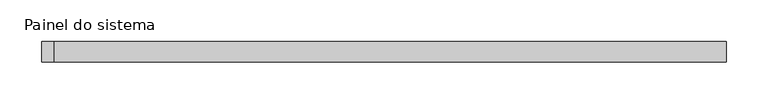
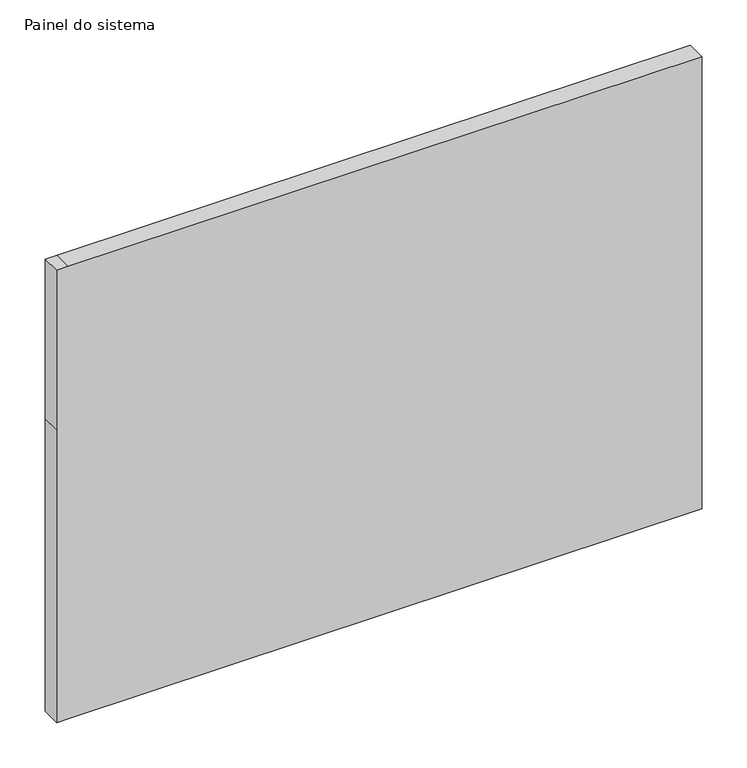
"""IFC4 building model written with IfcOpenShell, lengths in millimetres: plate geometry, Painel do sistema : Envidraçado."""

import ifcopenshell
import ifcopenshell.guid

model = None  # the IFC model being written
_history = None  # IfcOwnerHistory: only IFC2X3 demands one
_inside = {}  # id of a spatial element -> (the spatial element, [elements in it])
_under = {}  # id of a project, library or spatial element -> (it, [spatial elements below it])
_declared = {}  # id of a project -> (the project, [libraries it declares])
_typed = {}  # id of a type object -> (the type object, [elements of that type])
_made_of = {}  # id of a material, layer set ... -> (it, [elements and type objects made of it])


def new_model(schema):
    """Start an empty IFC model of exactly this schema.

    Asked for "IFC4X3", IfcOpenShell would pick the latest addendum, in which some entities
    have other attributes; the version numbers below select the first issue.
    IFC2X3 requires an IfcOwnerHistory on every rooted entity: one is made here for all.
    """
    global model, _history
    if schema == "IFC4X3":
        model = ifcopenshell.file(schema_version=(4, 3, 0, 0))
    else:
        model = ifcopenshell.file(schema=schema)
    _inside.clear()
    _under.clear()
    _declared.clear()
    _typed.clear()
    _made_of.clear()
    _history = None
    if model.schema == "IFC2X3":
        org = make("IfcOrganization", Name="unknown")
        user = make(
            "IfcPersonAndOrganization",
            ThePerson=make("IfcPerson", FamilyName="unknown"),
            TheOrganization=org,
        )
        app = make(
            "IfcApplication",
            ApplicationDeveloper=org,
            Version="unknown",
            ApplicationFullName="unknown",
            ApplicationIdentifier="unknown",
        )
        _history = make(
            "IfcOwnerHistory",
            OwningUser=user,
            OwningApplication=app,
            ChangeAction="ADDED",
            CreationDate=0,
        )
    return model


def make(cls, **values):
    """One entity of the class cls with the attributes given. An attribute that is None is left unset."""
    return model.create_entity(
        cls, **{name: value for name, value in values.items() if value is not None}
    )


def rooted(cls, **values):
    """An entity with a GlobalId (a new one), such as an element, a storey or a relation."""
    return make(cls, GlobalId=ifcopenshell.guid.new(), OwnerHistory=_history, **values)


def si_unit(unit_type, name, prefix=None):
    """IfcSIUnit, for example si_unit("LENGTHUNIT", "METRE", prefix="MILLI")."""
    return make("IfcSIUnit", UnitType=unit_type, Prefix=prefix, Name=name)


def assignment(units):
    """IfcUnitAssignment: the units of a project."""
    return None if units is None else make("IfcUnitAssignment", Units=units)


def point(xyz):
    """IfcCartesianPoint."""
    return None if xyz is None else make("IfcCartesianPoint", Coordinates=xyz)


def direction(xyz):
    """IfcDirection."""
    return None if xyz is None else make("IfcDirection", DirectionRatios=xyz)


def frame(location, z_axis=None, x_axis=None):
    """IfcAxis2Placement3D, a coordinate frame: its origin and axes. An axis left out is left unset."""
    return make(
        "IfcAxis2Placement3D",
        Location=point(location),
        Axis=direction(z_axis),
        RefDirection=direction(x_axis),
    )


def origin():
    """The frame at (0, 0, 0) with its axes left unset."""
    return frame((0.0, 0.0, 0.0))


def place(relative_to, where):
    """IfcLocalPlacement: puts the frame where relative to a parent placement (None: the world)."""
    return make(
        "IfcLocalPlacement", PlacementRelTo=relative_to, RelativePlacement=where
    )


def context(
    kind, dimensions, precision=None, world=None, true_north=None, identifier=None
):
    """IfcGeometricRepresentationContext, for example the 3D "Model" context."""
    return make(
        "IfcGeometricRepresentationContext",
        ContextIdentifier=identifier,
        ContextType=kind,
        CoordinateSpaceDimension=dimensions,
        Precision=precision,
        WorldCoordinateSystem=world,
        TrueNorth=true_north,
    )


def project(units=None, contexts=None):
    """IfcProject with its units and contexts."""
    return rooted(
        "IfcProject",
        Name="project",
        RepresentationContexts=contexts,
        UnitsInContext=assignment(units),
    )


def spatial(cls, under=None, at=None, **own):
    """A site, building, storey or space (cls), placed at a placement, below another one or the project."""
    s = rooted(cls, ObjectPlacement=at, **own)
    if under is not None:
        _under.setdefault(under.id(), (under, []))[1].append(s)
    return s


def polyline(points):
    """IfcPolyline through the points."""
    return make("IfcPolyline", Points=[point(p) for p in points])


def outline(outer, holes=None, kind="AREA"):
    """IfcArbitraryClosedProfileDef: a profile drawn as a closed curve; with holes, ...WithVoids."""
    if holes is None:
        return make("IfcArbitraryClosedProfileDef", ProfileType=kind, OuterCurve=outer)
    return make(
        "IfcArbitraryProfileDefWithVoids",
        ProfileType=kind,
        OuterCurve=outer,
        InnerCurves=holes,
    )


def extrude(swept, where, along, depth):
    """IfcExtrudedAreaSolid: the profile swept, set in the frame where, extruded along a direction by depth."""
    return make(
        "IfcExtrudedAreaSolid",
        SweptArea=swept,
        Position=where,
        ExtrudedDirection=direction(along),
        Depth=depth,
    )


def shape(context_of_items, identifier, shape_type, items):
    """IfcShapeRepresentation: the items that make up one representation, for example the "Body"."""
    return make(
        "IfcShapeRepresentation",
        ContextOfItems=context_of_items,
        RepresentationIdentifier=identifier,
        RepresentationType=shape_type,
        Items=items,
    )


def source(mapping_origin, context_of_items, identifier, shape_type, items):
    """IfcRepresentationMap: a shape defined once, which mapped items show again and again."""
    return make(
        "IfcRepresentationMap",
        MappingOrigin=mapping_origin,
        MappedRepresentation=shape(context_of_items, identifier, shape_type, items),
    )


def transform(
    local_origin,
    x_axis=None,
    y_axis=None,
    z_axis=None,
    scale=None,
    scale2=None,
    scale3=None,
    uniform=True,
):
    """IfcCartesianTransformationOperator3D, or its non-uniform kind. x_axis, y_axis, z_axis: its Axis1, 2, 3."""
    if uniform:
        return make(
            "IfcCartesianTransformationOperator3D",
            Axis1=direction(x_axis),
            Axis2=direction(y_axis),
            LocalOrigin=point(local_origin),
            Scale=scale,
            Axis3=direction(z_axis),
        )
    return make(
        "IfcCartesianTransformationOperator3DnonUniform",
        Axis1=direction(x_axis),
        Axis2=direction(y_axis),
        LocalOrigin=point(local_origin),
        Scale=scale,
        Axis3=direction(z_axis),
        Scale2=scale2,
        Scale3=scale3,
    )


def mapped(mapping_source, mapping_target):
    """IfcMappedItem: shows the shape of a source again, moved by a transform."""
    return make(
        "IfcMappedItem", MappingSource=mapping_source, MappingTarget=mapping_target
    )


def made_of(thing, what):
    """Note that an element or type object is made of a material, layer set ...; save() writes the relation."""
    if what is not None:
        _made_of.setdefault(what.id(), (what, []))[1].append(thing)
    return thing


def element(
    cls,
    number,
    at=None,
    inside=None,
    cuts=None,
    type_object=None,
    material=None,
    context=None,
    identifier="Body",
    shape_type=None,
    held_by="IfcProductDefinitionShape",
    body=None,
    shapes=None,
    **own,
):
    """One element of the class cls, such as IfcWall. Its Tag is "e" and its number.

    at: its placement. inside: the storey or other place that contains it. cuts: it is an
    opening in that element (IfcRelVoidsElement). A single representation is given by context,
    identifier, shape_type and body (its items); several are given by shapes. held_by: the class
    of the entity that holds the representations. save() writes the other relations.
    """
    e = rooted(cls, Tag="e%d" % number, ObjectPlacement=at, **own)
    if body is not None:
        shapes = [shape(context, identifier, shape_type, body)]
    if shapes is not None:
        e.Representation = make(held_by, Representations=shapes)
    if inside is not None:
        _inside.setdefault(inside.id(), (inside, []))[1].append(e)
    if cuts is not None:
        rooted(
            "IfcRelVoidsElement", RelatingBuildingElement=cuts, RelatedOpeningElement=e
        )
    if type_object is not None:
        _typed.setdefault(type_object.id(), (type_object, []))[1].append(e)
    return made_of(e, material)


def aggregate(whole, parts):
    """IfcRelAggregates: a whole, such as a stair, and the parts it consists of."""
    return rooted("IfcRelAggregates", RelatingObject=whole, RelatedObjects=parts)


def save(model, path):
    """Write the relations noted so far, then the file.

    IfcRelAggregates (storeys below a building ...), IfcRelContainedInSpatialStructure (elements
    in a storey), IfcRelDefinesByType, IfcRelAssociatesMaterial and IfcRelDeclares: one each for
    every whole, place, type object, material and project.
    """
    for whole, parts in _under.values():
        aggregate(whole, parts)
    for where, things in _inside.values():
        rooted(
            "IfcRelContainedInSpatialStructure",
            RelatedElements=things,
            RelatingStructure=where,
        )
    for kind, things in _typed.values():
        rooted("IfcRelDefinesByType", RelatedObjects=things, RelatingType=kind)
    for what, things in _made_of.values():
        rooted("IfcRelAssociatesMaterial", RelatedObjects=things, RelatingMaterial=what)
    for by, libraries in _declared.values():
        rooted("IfcRelDeclares", RelatingContext=by, RelatedDefinitions=libraries)
    model.write(path)


def painel_do_sistema_289a7e6d(model_context):
    return source(origin(), model_context, "Body", "SweptSolid", [
        extrude(outline(polyline([(0.0, -411.6666667), (0.0, -396.6666667), (0.0, 411.6666667), (395.0, 411.6666667), (610.0, 411.6666667), (610.0, -396.6666667), (610.0, -411.6666667), (395.0, -411.6666667), (0.0, -411.6666667)])), frame((0.0, 24.5, 0.0), z_axis=(0.0, 1.0, 0.0), x_axis=(0.0, 0.0, 1.0)), (0.0, 0.0, 1.0), 25.0),
    ])


if __name__ == "__main__":
    model = new_model("IFC4")
    model_context = context("Model", 3, world=origin())
    ifc_project = project(units=[si_unit("LENGTHUNIT", "METRE", prefix="MILLI")], contexts=[model_context])
    site = spatial("IfcSite", under=ifc_project)
    building = spatial("IfcBuilding", under=site)
    placement = place(None, origin())
    painel_do_sistema_shape = painel_do_sistema_289a7e6d(model_context)
    element("IfcPlate", 1, ObjectType="Painel do sistema : Envidraçado", at=placement, inside=building, context=model_context, shape_type="MappedRepresentation", body=[
        mapped(painel_do_sistema_shape, transform((0.0, 0.0, 0.0), x_axis=(1.0, 0.0, 0.0), y_axis=(0.0, 1.0, 0.0), z_axis=(0.0, 0.0, 1.0))),
    ])
    save(model, "model.ifc")
